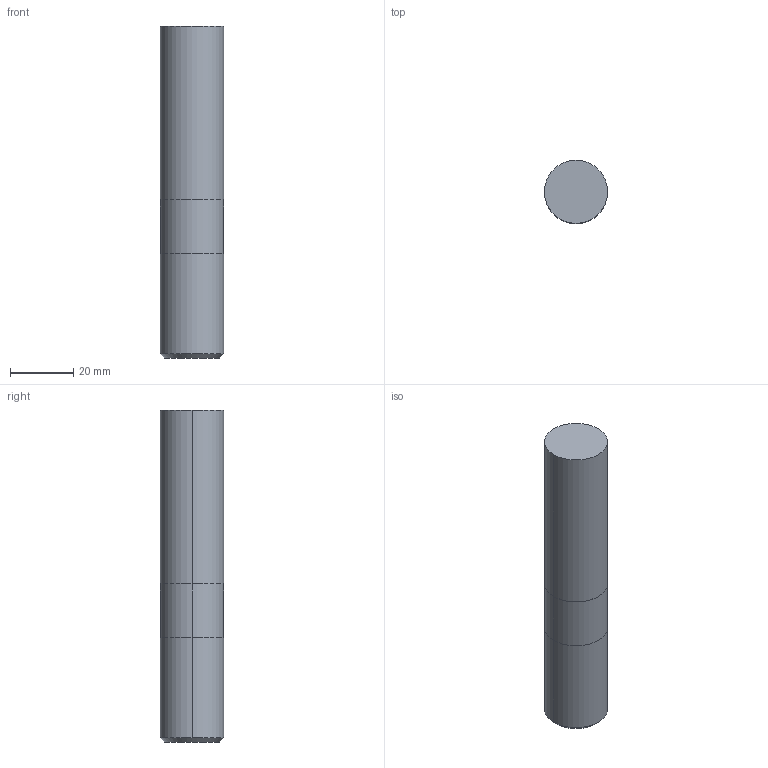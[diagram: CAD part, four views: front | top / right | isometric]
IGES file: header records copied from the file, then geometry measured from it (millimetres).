
Start section: 3D InterOp IGES (v. 2020 1.0.1), Spatial Corp. Copyright (c) 1999-2017.
Global section: file name: WZG17223_20x1.5.igs; native system: Spatial Corp.; preprocessor: 3D InterOp GENERIC/IGES 3.0; author: Noname; organization: Noname; date: 20201007.094657; units: metre
Bounding box: 20 x 20 x 105 mm (x, y, z)
Surface area: 7166.9 mm2 (no closed solid volume)
Topology: 0 solids, 0 shells, 12 faces, 44 edges, 44 vertices
Faces by surface type: revolution 8, extrusion 4
